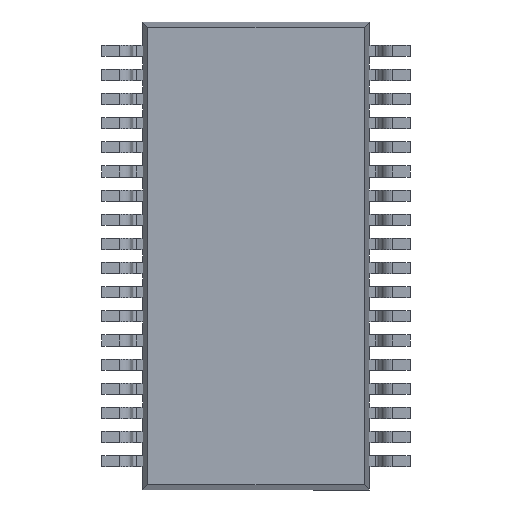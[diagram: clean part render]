
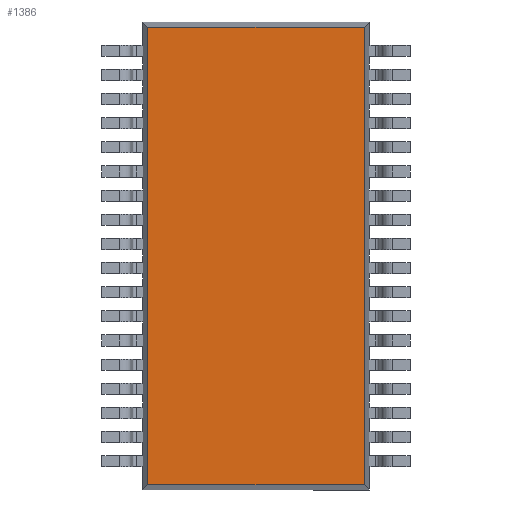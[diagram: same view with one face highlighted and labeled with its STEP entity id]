
A CAD part, front view. The second image highlights one B-rep face of the part: STEP entity #1386.
In plain terms, the highlighted planar face has unit normal (0, -1, 0).
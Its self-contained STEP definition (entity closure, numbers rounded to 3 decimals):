
#106 = VERTEX_POINT ( 'NONE', #13674 ) ;
#142 = VERTEX_POINT ( 'NONE', #13710 ) ;
#217 = VERTEX_POINT ( 'NONE', #13785 ) ;
#221 = VERTEX_POINT ( 'NONE', #13789 ) ;
#1386 = ADVANCED_FACE ( 'NONE', ( #7656 ), #15710, .F. ) ;
#1961 = EDGE_CURVE ( 'NONE', #221, #106, #17196, .T. ) ;
#1962 = EDGE_CURVE ( 'NONE', #142, #217, #17193, .T. ) ;
#2292 = EDGE_CURVE ( 'NONE', #217, #221, #17784, .T. ) ;
#2300 = EDGE_CURVE ( 'NONE', #106, #142, #17825, .T. ) ;
#3557 = AXIS2_PLACEMENT_3D ( 'NONE', #15724, #15707, #15706 ) ;
#6014 = EDGE_LOOP ( 'NONE', ( #9311, #9301, #9303, #9305 ) ) ;
#7656 = FACE_OUTER_BOUND ( 'NONE', #6014, .T. ) ;
#9301 = ORIENTED_EDGE ( 'NONE', *, *, #1961, .T. ) ;
#9303 = ORIENTED_EDGE ( 'NONE', *, *, #2300, .T. ) ;
#9305 = ORIENTED_EDGE ( 'NONE', *, *, #1962, .T. ) ;
#9311 = ORIENTED_EDGE ( 'NONE', *, *, #2292, .T. ) ;
#13674 = CARTESIAN_POINT ( 'NONE',  ( 2.909, 0.1, -6.159 ) ) ;
#13710 = CARTESIAN_POINT ( 'NONE',  ( 2.909, 0.1, 6.159 ) ) ;
#13785 = CARTESIAN_POINT ( 'NONE',  ( -2.909, 0.1, 6.159 ) ) ;
#13789 = CARTESIAN_POINT ( 'NONE',  ( -2.909, 0.1, -6.159 ) ) ;
#15706 = DIRECTION ( 'NONE',  ( 0., 0., 1. ) ) ;
#15707 = DIRECTION ( 'NONE',  ( 0., 1., 0. ) ) ;
#15710 = PLANE ( 'NONE',  #3557 ) ;
#15724 = CARTESIAN_POINT ( 'NONE',  ( 0., 0.1, 0. ) ) ;
#16552 = CARTESIAN_POINT ( 'NONE',  ( 3.05, 0.1, 6.159 ) ) ;
#16558 = CARTESIAN_POINT ( 'NONE',  ( 3.05, 0.1, -6.159 ) ) ;
#16561 = DIRECTION ( 'NONE',  ( 1., 0., 0. ) ) ;
#16562 = DIRECTION ( 'NONE',  ( -1., 0., 0. ) ) ;
#17193 = LINE ( 'NONE', #16552, #17201 ) ;
#17196 = LINE ( 'NONE', #16558, #17199 ) ;
#17199 = VECTOR ( 'NONE', #16561, 1000. ) ;
#17201 = VECTOR ( 'NONE', #16562, 1000. ) ;
#17784 = LINE ( 'NONE', #18408, #17814 ) ;
#17814 = VECTOR ( 'NONE', #18440, 1000. ) ;
#17825 = LINE ( 'NONE', #18444, #17830 ) ;
#17830 = VECTOR ( 'NONE', #18455, 1000. ) ;
#18408 = CARTESIAN_POINT ( 'NONE',  ( -2.909, 0.1, 6.3 ) ) ;
#18440 = DIRECTION ( 'NONE',  ( 0., 0., -1. ) ) ;
#18444 = CARTESIAN_POINT ( 'NONE',  ( 2.909, 0.1, 6.3 ) ) ;
#18455 = DIRECTION ( 'NONE',  ( 0., 0., 1. ) ) ;
